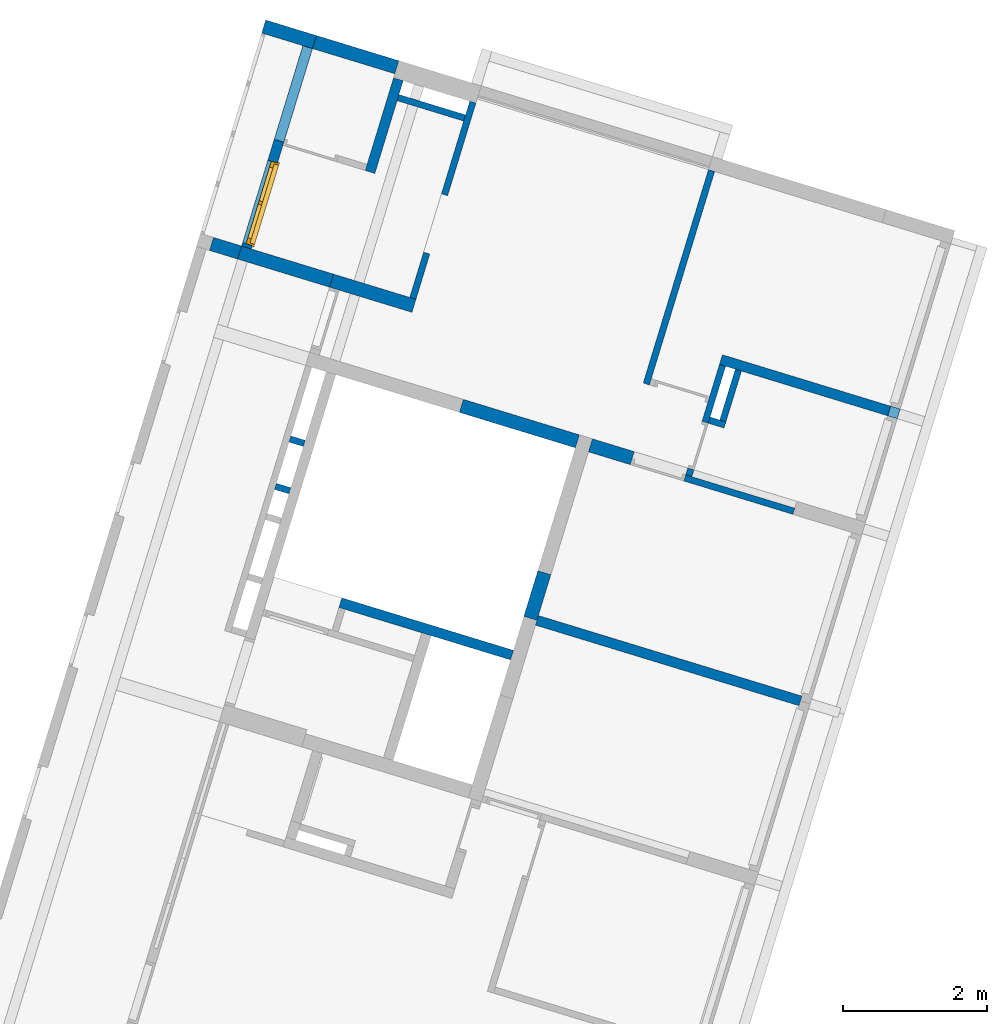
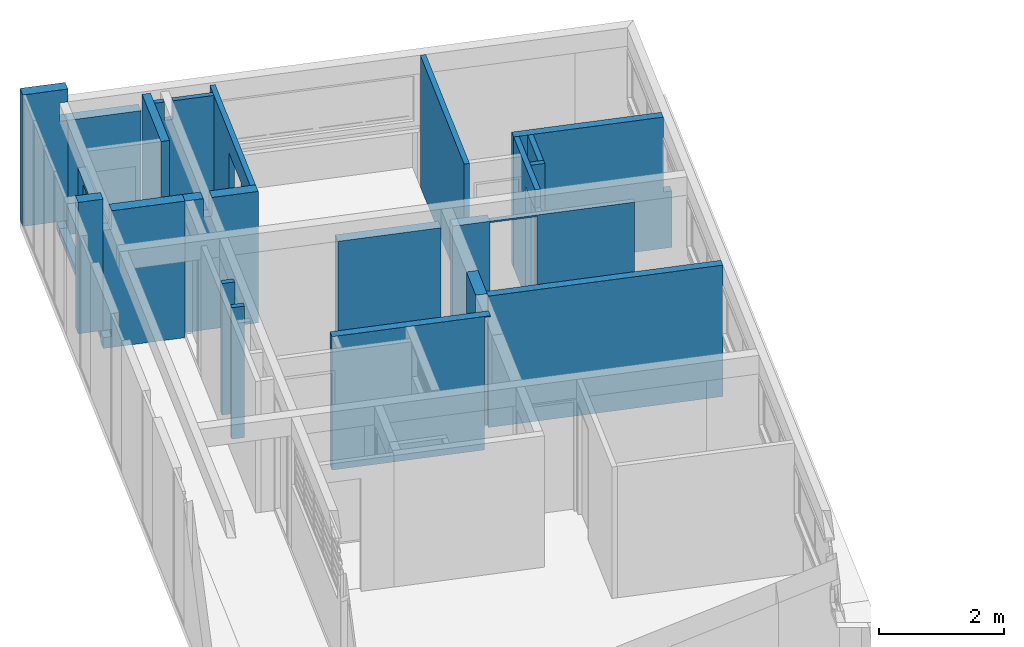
# One storey, part 15 of 18: 22 walls, 1 window, 4 openings.
"""IFC2X3 building model written with IfcOpenShell, lengths in millimetres."""

import ifcopenshell
import ifcopenshell.guid

model = None  # the IFC model being written
_history = None  # IfcOwnerHistory: only IFC2X3 demands one
_inside = {}  # id of a spatial element -> (the spatial element, [elements in it])
_under = {}  # id of a project, library or spatial element -> (it, [spatial elements below it])
_declared = {}  # id of a project -> (the project, [libraries it declares])
_typed = {}  # id of a type object -> (the type object, [elements of that type])
_made_of = {}  # id of a material, layer set ... -> (it, [elements and type objects made of it])


def new_model(schema):
    """Start an empty IFC model of exactly this schema.

    Asked for "IFC4X3", IfcOpenShell would pick the latest addendum, in which some entities
    have other attributes; the version numbers below select the first issue.
    IFC2X3 requires an IfcOwnerHistory on every rooted entity: one is made here for all.
    """
    global model, _history
    if schema == "IFC4X3":
        model = ifcopenshell.file(schema_version=(4, 3, 0, 0))
    else:
        model = ifcopenshell.file(schema=schema)
    _inside.clear()
    _under.clear()
    _declared.clear()
    _typed.clear()
    _made_of.clear()
    _history = None
    if model.schema == "IFC2X3":
        org = make("IfcOrganization", Name="unknown")
        user = make(
            "IfcPersonAndOrganization",
            ThePerson=make("IfcPerson", FamilyName="unknown"),
            TheOrganization=org,
        )
        app = make(
            "IfcApplication",
            ApplicationDeveloper=org,
            Version="unknown",
            ApplicationFullName="unknown",
            ApplicationIdentifier="unknown",
        )
        _history = make(
            "IfcOwnerHistory",
            OwningUser=user,
            OwningApplication=app,
            ChangeAction="ADDED",
            CreationDate=0,
        )
    return model


def make(cls, **values):
    """One entity of the class cls with the attributes given. An attribute that is None is left unset."""
    return model.create_entity(
        cls, **{name: value for name, value in values.items() if value is not None}
    )


def entity(cls, *values):
    """Any entity or typed value of the class cls, its attributes in the order of the schema. None: left unset."""
    e = model.create_entity(cls)
    for i, value in enumerate(values):
        if value is not None:
            e[i] = value
    return e


def rooted(cls, **values):
    """An entity with a GlobalId (a new one), such as an element, a storey or a relation."""
    return make(cls, GlobalId=ifcopenshell.guid.new(), OwnerHistory=_history, **values)


def si_unit(unit_type, name, prefix=None):
    """IfcSIUnit, for example si_unit("LENGTHUNIT", "METRE", prefix="MILLI")."""
    return make("IfcSIUnit", UnitType=unit_type, Prefix=prefix, Name=name)


def converted_unit(unit_type, name, factor, base, dimensions=None, offset=None):
    """IfcConversionBasedUnit, such as the inch: factor (a typed value) times the base unit."""
    return make(
        "IfcConversionBasedUnit"
        if offset is None
        else "IfcConversionBasedUnitWithOffset",
        ConversionOffset=offset,
        Dimensions=None
        if dimensions is None
        else entity("IfcDimensionalExponents", *dimensions),
        UnitType=unit_type,
        Name=name,
        ConversionFactor=make(
            "IfcMeasureWithUnit", ValueComponent=factor, UnitComponent=base
        ),
    )


def derived_unit(unit_type, elements):
    """IfcDerivedUnit: a product of units, each with its exponent."""
    return make(
        "IfcDerivedUnit",
        Elements=[
            make("IfcDerivedUnitElement", Unit=unit, Exponent=power)
            for unit, power in elements
        ],
        UnitType=unit_type,
    )


def money_unit(currency):
    """IfcMonetaryUnit."""
    return make("IfcMonetaryUnit", Currency=currency)


def assignment(units):
    """IfcUnitAssignment: the units of a project."""
    return None if units is None else make("IfcUnitAssignment", Units=units)


def point(xyz):
    """IfcCartesianPoint."""
    return None if xyz is None else make("IfcCartesianPoint", Coordinates=xyz)


def direction(xyz):
    """IfcDirection."""
    return None if xyz is None else make("IfcDirection", DirectionRatios=xyz)


def frame(location, z_axis=None, x_axis=None):
    """IfcAxis2Placement3D, a coordinate frame: its origin and axes. An axis left out is left unset."""
    return make(
        "IfcAxis2Placement3D",
        Location=point(location),
        Axis=direction(z_axis),
        RefDirection=direction(x_axis),
    )


def origin_with_axes():
    """The frame at (0, 0, 0) with the z axis (0, 0, 1) and the x axis (1, 0, 0) written out."""
    return frame((0.0, 0.0, 0.0), z_axis=(0.0, 0.0, 1.0), x_axis=(1.0, 0.0, 0.0))


def place(relative_to, where):
    """IfcLocalPlacement: puts the frame where relative to a parent placement (None: the world)."""
    return make(
        "IfcLocalPlacement", PlacementRelTo=relative_to, RelativePlacement=where
    )


def context(
    kind, dimensions, precision=None, world=None, true_north=None, identifier=None
):
    """IfcGeometricRepresentationContext, for example the 3D "Model" context."""
    return make(
        "IfcGeometricRepresentationContext",
        ContextIdentifier=identifier,
        ContextType=kind,
        CoordinateSpaceDimension=dimensions,
        Precision=precision,
        WorldCoordinateSystem=world,
        TrueNorth=true_north,
    )


def subcontext(parent, identifier, kind, view, scale=None):
    """IfcGeometricRepresentationSubContext, for example "Body" below "Model"."""
    return make(
        "IfcGeometricRepresentationSubContext",
        ContextIdentifier=identifier,
        ContextType=kind,
        ParentContext=parent,
        TargetScale=scale,
        TargetView=view,
    )


def project(units=None, contexts=None):
    """IfcProject with its units and contexts."""
    return rooted(
        "IfcProject",
        Name="project",
        RepresentationContexts=contexts,
        UnitsInContext=assignment(units),
    )


def spatial(cls, under=None, at=None, **own):
    """A site, building, storey or space (cls), placed at a placement, below another one or the project."""
    s = rooted(cls, ObjectPlacement=at, **own)
    if under is not None:
        _under.setdefault(under.id(), (under, []))[1].append(s)
    return s


def faces_of(points, faces, orient=None, outer=None):
    """IfcFace entities. A face is a list of loops; a loop is a list of indices into points, from 0.

    orient and outer hold one flag for each loop. By default every Orientation is true, the
    first loop of a face is its IfcFaceOuterBound and the others are IfcFaceBound.
    """
    made = []
    for i, loops in enumerate(faces):
        bounds = []
        for j, loop in enumerate(loops):
            is_outer = j == 0 if outer is None else outer[i][j]
            bounds.append(
                make(
                    "IfcFaceOuterBound" if is_outer else "IfcFaceBound",
                    Bound=make("IfcPolyLoop", Polygon=[points[k] for k in loop]),
                    Orientation=True if orient is None else orient[i][j],
                )
            )
        made.append(make("IfcFace", Bounds=bounds))
    return made


def open_shell(faces, orient=None, outer=None):
    """The faces of one IfcOpenShell. surface_model builds it on its shared points."""
    return ("IfcOpenShell", faces, orient, outer)


def faceted_brep(points, faces, orient=None, outer=None, voids=None):
    """IfcFacetedBrep: a solid bounded by flat faces; with voids (closed shells), ...WithVoids."""
    shared = [point(p) for p in points]
    hull = make("IfcClosedShell", CfsFaces=faces_of(shared, faces, orient, outer))
    if voids is None:
        return make("IfcFacetedBrep", Outer=hull)
    return make(
        "IfcFacetedBrepWithVoids",
        Outer=hull,
        Voids=[
            make(cls, CfsFaces=faces_of(shared, fs, o, b)) for cls, fs, o, b in voids
        ],
    )


def surface_model(cls, points, shells):
    """IfcFaceBasedSurfaceModel or IfcShellBasedSurfaceModel (cls): surfaces that need not close."""
    shared = [point(p) for p in points]
    made = [make(c, CfsFaces=faces_of(shared, fs, o, b)) for c, fs, o, b in shells]
    if cls == "IfcFaceBasedSurfaceModel":
        return make(cls, FbsmFaces=made)
    return make(cls, SbsmBoundary=made)


def shape(context_of_items, identifier, shape_type, items):
    """IfcShapeRepresentation: the items that make up one representation, for example the "Body"."""
    return make(
        "IfcShapeRepresentation",
        ContextOfItems=context_of_items,
        RepresentationIdentifier=identifier,
        RepresentationType=shape_type,
        Items=items,
    )


def material(Name=None, Category=None):
    """IfcMaterial."""
    return make("IfcMaterial", Name=Name, Category=Category)


def made_of(thing, what):
    """Note that an element or type object is made of a material, layer set ...; save() writes the relation."""
    if what is not None:
        _made_of.setdefault(what.id(), (what, []))[1].append(thing)
    return thing


def type_object(cls, material=None, **own):
    """A type object (cls), such as IfcWallType, which elements share."""
    return made_of(rooted(cls, **own), material)


def element(
    cls,
    number,
    at=None,
    inside=None,
    cuts=None,
    type_object=None,
    material=None,
    context=None,
    identifier="Body",
    shape_type=None,
    held_by="IfcProductDefinitionShape",
    body=None,
    shapes=None,
    **own,
):
    """One element of the class cls, such as IfcWall. Its Tag is "e" and its number.

    at: its placement. inside: the storey or other place that contains it. cuts: it is an
    opening in that element (IfcRelVoidsElement). A single representation is given by context,
    identifier, shape_type and body (its items); several are given by shapes. held_by: the class
    of the entity that holds the representations. save() writes the other relations.
    """
    e = rooted(cls, Tag="e%d" % number, ObjectPlacement=at, **own)
    if body is not None:
        shapes = [shape(context, identifier, shape_type, body)]
    if shapes is not None:
        e.Representation = make(held_by, Representations=shapes)
    if inside is not None:
        _inside.setdefault(inside.id(), (inside, []))[1].append(e)
    if cuts is not None:
        rooted(
            "IfcRelVoidsElement", RelatingBuildingElement=cuts, RelatedOpeningElement=e
        )
    if type_object is not None:
        _typed.setdefault(type_object.id(), (type_object, []))[1].append(e)
    return made_of(e, material)


def fill(opening, filler):
    """IfcRelFillsElement: the door or window that sits in an opening."""
    return rooted(
        "IfcRelFillsElement",
        RelatingOpeningElement=opening,
        RelatedBuildingElement=filler,
    )


def aggregate(whole, parts):
    """IfcRelAggregates: a whole, such as a stair, and the parts it consists of."""
    return rooted("IfcRelAggregates", RelatingObject=whole, RelatedObjects=parts)


def save(model, path):
    """Write the relations noted so far, then the file.

    IfcRelAggregates (storeys below a building ...), IfcRelContainedInSpatialStructure (elements
    in a storey), IfcRelDefinesByType, IfcRelAssociatesMaterial and IfcRelDeclares: one each for
    every whole, place, type object, material and project.
    """
    for whole, parts in _under.values():
        aggregate(whole, parts)
    for where, things in _inside.values():
        rooted(
            "IfcRelContainedInSpatialStructure",
            RelatedElements=things,
            RelatingStructure=where,
        )
    for kind, things in _typed.values():
        rooted("IfcRelDefinesByType", RelatedObjects=things, RelatingType=kind)
    for what, things in _made_of.values():
        rooted("IfcRelAssociatesMaterial", RelatedObjects=things, RelatingMaterial=what)
    for by, libraries in _declared.values():
        rooted("IfcRelDeclares", RelatingContext=by, RelatedDefinitions=libraries)
    model.write(path)


model = new_model("IFC2X3")

# Units and contexts
model_context = context("Model", 3, precision=0.01, world=origin_with_axes(), true_north=direction((0.0, 1.0)))
body_context = subcontext(model_context, "Body", "Model", "MODEL_VIEW")
ifc_project = project(units=[si_unit("LENGTHUNIT", "METRE", prefix="MILLI"), si_unit("AREAUNIT", "SQUARE_METRE"), si_unit("VOLUMEUNIT", "CUBIC_METRE"), converted_unit("PLANEANGLEUNIT", "DEGREE", entity("IfcPlaneAngleMeasure", 0.0174532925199), si_unit("PLANEANGLEUNIT", "RADIAN"), dimensions=[0, 0, 0, 0, 0, 0, 0]), money_unit("USD"), converted_unit("TIMEUNIT", "Year", entity("IfcTimeMeasure", 31556926.0), si_unit("TIMEUNIT", "SECOND"), dimensions=[0, 0, 1, 0, 0, 0, 0]), si_unit("MASSUNIT", "GRAM", prefix="KILO"), si_unit("THERMODYNAMICTEMPERATUREUNIT", "DEGREE_CELSIUS"), si_unit("LUMINOUSINTENSITYUNIT", "LUMEN"), si_unit("ENERGYUNIT", "JOULE", prefix="MEGA"), derived_unit("THERMALCONDUCTANCEUNIT", [(si_unit("POWERUNIT", "WATT"), 1), (si_unit("LENGTHUNIT", "METRE"), -1), (si_unit("THERMODYNAMICTEMPERATUREUNIT", "KELVIN"), -1)]), derived_unit("SPECIFICHEATCAPACITYUNIT", [(si_unit("ENERGYUNIT", "JOULE"), 1), (si_unit("MASSUNIT", "GRAM", prefix="KILO"), -1), (si_unit("THERMODYNAMICTEMPERATUREUNIT", "KELVIN"), -1)]), derived_unit("MASSDENSITYUNIT", [(si_unit("MASSUNIT", "GRAM", prefix="KILO"), 1), (si_unit("VOLUMEUNIT", "CUBIC_METRE"), -1)])], contexts=[model_context])

# Site, building, storey
site_placement = place(None, frame((0.0, 0.0, 0.0), z_axis=(0.0, 0.0, 1.0), x_axis=(0.956304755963, -0.292371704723, 0.0)))
site = spatial("IfcSite", under=ifc_project, at=site_placement, Name="Site", CompositionType="ELEMENT")
building_placement = place(site_placement, origin_with_axes())
building = spatial("IfcBuilding", under=site, at=building_placement, Name="Building", CompositionType="ELEMENT")
storey_placement = place(building_placement, origin_with_axes())
storey = spatial("IfcBuildingStorey", under=building, at=storey_placement, Name="Pavimento tipo", CompositionType="ELEMENT", Elevation=0.0)

# Wall
ifc_material = material(Name="Tijolo - Estrutural")
wall_type_1 = type_object("IfcWallType", Name="Tijolo - Estrutural 90", PredefinedType="NOTDEFINED")
wall_1_placement = place(storey_placement, frame((1341.71113634, 23649.9980199, -100.0), z_axis=(0.0, 0.0, 1.0), x_axis=(1.0, 1.6616762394e-07, 0.0)))
element("IfcWall", 1, at=wall_1_placement, inside=storey, type_object=wall_type_1, material=ifc_material, Name="Parede 49", context=body_context, shape_type="Brep", body=[
    faceted_brep([(89.9999990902, -90.0000149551, 2560.0), (299.999789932, -90.0000498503, 2560.0), (299.999804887, -4.98502537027e-05, 2560.0), (90.0, -1.49550842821e-05, 2560.0), (89.9999990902, -90.0000149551, 0.0), (299.999789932, -90.0000498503, 0.0), (299.999804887, -4.98502537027e-05, 0.0), (90.0, -1.49550842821e-05, 0.0)], [[[0, 1, 2, 3]], [[4, 5, 1, 0]], [[6, 2, 1, 5]], [[3, 2, 6, 7]], [[7, 4, 0, 3]], [[7, 6, 5, 4]]]),
])

# Space
space_1_placement = place(storey_placement, frame((1481.71158317, 24839.9981298, 0.0), z_axis=(0.0, 0.0, 1.0), x_axis=(1.0, -1.55460451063e-08, 0.0)))
space_1 = spatial("IfcSpace", under=storey, at=space_1_placement, Name="04", CompositionType="ELEMENT", InteriorOrExteriorSpace="INTERNAL")

# Wall
wall_2_placement = place(space_1_placement, frame((5690.00065724, 679.991992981, 0.0), z_axis=(0.0, 0.0, 1.0), x_axis=(-1.55460451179e-08, 1.0, 0.0)))
element("IfcWall", 2, at=wall_2_placement, inside=space_1, type_object=wall_type_1, material=ifc_material, Name="Apt 04 - Parede 21", context=body_context, shape_type="Brep", body=[
    faceted_brep([(830.000003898, 90.0, 0.0), (830.000006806, 0.0, 0.0), (90.0, 0.0, 0.0), (90.0, 90.0, 0.0), (830.000003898, 90.0, 2560.0), (830.000006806, 0.0, 2560.0), (90.0, 0.0, 2560.0), (90.0, 90.0, 2560.0)], [[[0, 1, 2, 3]], [[1, 0, 4, 5]], [[1, 5, 6, 2]], [[7, 3, 2, 6]], [[4, 0, 3, 7]], [[5, 4, 7, 6]]]),
])

# Wall, opening
wall_3_placement = place(space_1_placement, frame((6959.99933264, -100.007985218, 0.0), z_axis=(0.0, 0.0, 1.0), x_axis=(-1.0, -8.21768748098e-08, 0.0)))
wall_3 = element("IfcWall", 3, at=wall_3_placement, inside=space_1, type_object=wall_type_1, material=ifc_material, Name="Apt 04 - Parede 14", context=body_context, shape_type="Brep", body=[
    faceted_brep([(1589.99957007, -0.000105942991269, 2170.0), (2369.99957007, -0.000157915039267, 2170.0), (2369.99980652, -0.000157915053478, 2200.0), (0.0, 0.0, 2200.0), (0.0, 0.0, 0.0), (1589.99957007, -0.000105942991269, 0.0), (1589.99957606, 89.999894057, 2170.0), (2369.99957606, 89.999842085, 2170.0), (2369.99981252, 89.9998420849, 2200.0), (5.99677463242e-06, 90.0, 2200.0), (5.99677463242e-06, 90.0, 0.0), (1589.99957606, 89.999894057, 0.0)], [[[0, 1, 2, 3, 4, 5]], [[1, 0, 6, 7]], [[1, 7, 8, 2]], [[3, 2, 8, 9]], [[9, 10, 4, 3]], [[11, 5, 4, 10]], [[0, 5, 11, 6]], [[6, 11, 10, 9, 8, 7]]]),
])
opening_1_placement = place(wall_3_placement, frame((1979.99957007, 0.0, 0.0), z_axis=(0.0, 0.0, 1.0), x_axis=(1.0, 0.0, 0.0)))
element("IfcOpeningElement", 4, at=opening_1_placement, cuts=wall_3, Name="Apt 04 - Porta 05", context=body_context, shape_type="Brep", body=[
    faceted_brep([(390.000006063, 91.0, 2170.0), (390.000006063, 91.0, 0.0), (-389.999993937, 91.0000519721, 0.0), (-389.999993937, 91.0000519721, 2170.0), (389.999999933, -1.00015791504, 2170.0), (389.999999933, -1.00015791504, 0.0), (-390.000000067, -1.00010594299, 0.0), (-390.000000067, -1.00010594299, 2170.0)], [[[0, 1, 2, 3]], [[4, 5, 1, 0]], [[5, 6, 2, 1]], [[6, 7, 3, 2]], [[7, 4, 0, 3]], [[6, 5, 4, 7]]]),
])

# Wall
wall_4_placement = place(space_1_placement, frame((-69.9999247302, 3755.00179423, -30.0), z_axis=(0.0, 0.0, 1.0), x_axis=(1.0, 1.64246525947e-08, 0.0)))
element("IfcWall", 5, at=wall_4_placement, inside=space_1, type_object=wall_type_1, material=ifc_material, Name="Apt 04 - Parede 05", context=body_context, shape_type="Brep", body=[
    faceted_brep([(230.00173157, 44.9999997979, 2590.0), (230.00173157, 44.9999997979, 2230.0), (370.00173157, 44.9999996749, 2230.0), (370.00173157, 44.9999996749, 2590.0), (1039.99987836, 44.9999990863, 2590.0), (1039.99994269, 44.9999990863, 0.0), (70.0000064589, 44.9999999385, 0.0), (70.0000064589, 44.9999999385, 2590.0), (230.00173149, -45.0000002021, 2230.0), (230.00173149, -45.0000002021, 2590.0), (370.00173149, -45.0000003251, 2230.0), (370.00173149, -45.0000003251, 2590.0), (1039.99987828, -45.0000009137, 2590.0), (1039.99993531, -45.0000009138, 0.0), (70.0000063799, -45.0000000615, 0.0), (70.0000063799, -45.0000000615, 2590.0)], [[[0, 1, 2, 3, 4, 5, 6, 7]], [[8, 1, 0, 9]], [[10, 2, 1, 8]], [[10, 11, 3, 2]], [[4, 3, 11, 12]], [[4, 12, 13, 5]], [[14, 6, 5, 13]], [[6, 14, 15, 7]], [[15, 9, 0, 7]], [[10, 8, 9, 15, 14, 13, 12, 11]]]),
])

# Wall, opening
wall_5_placement = place(space_1_placement, frame((5370.00068436, 1649.99198447, 0.0), z_axis=(0.0, 0.0, 1.0), x_axis=(8.21581371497e-08, -1.0, 0.0)))
wall_5 = element("IfcWall", 6, at=wall_5_placement, inside=space_1, type_object=wall_type_1, material=ifc_material, Name="Apt 04 - Parede 20", context=body_context, shape_type="Brep", body=[
    faceted_brep([(1650.00000246, 89.99989009, 0.0), (1650.00000246, 89.99989009, 2170.0), (970.000002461, 89.9999353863, 2170.0), (970.000002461, 89.9999353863, 0.0), (140.000003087, 89.9999906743, 0.0), (140.000003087, 89.9999906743, 2560.0), (1650.00123126, 89.99989009, 2560.0), (1650.00123126, 89.99989009, 2200.0), (1750.0000004, 89.9998834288, 2200.0), (1750.0000004, 89.9998834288, 0.0), (1649.99999647, -0.000109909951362, 0.0), (1649.99999647, -0.000109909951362, 2170.0), (969.999996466, -6.46137285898e-05, 2170.0), (969.999996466, -6.46137285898e-05, 0.0), (140.0, -9.32569221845e-06, 0.0), (140.0, -9.32569221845e-06, 2560.0), (1650.00120562, -0.000109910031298, 2560.0), (1650.00120562, -0.00010991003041, 2200.0), (1749.99999441, -0.000116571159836, 2200.0), (1749.99999441, -0.000116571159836, 0.0)], [[[0, 1, 2, 3, 4, 5, 6, 7, 8, 9]], [[1, 0, 10, 11]], [[2, 1, 11, 12]], [[3, 2, 12, 13]], [[3, 13, 14, 4]], [[15, 5, 4, 14]], [[16, 6, 5, 15]], [[7, 6, 16, 17]], [[8, 7, 17, 18]], [[8, 18, 19, 9]], [[10, 0, 9, 19]], [[11, 10, 19, 18, 17, 16, 15, 14, 13, 12]]]),
])
opening_2_placement = place(wall_5_placement, frame((1309.99999647, 0.0, 0.0), z_axis=(0.0, 0.0, 1.0), x_axis=(1.0, 0.0, 0.0)))
element("IfcOpeningElement", 7, at=opening_2_placement, cuts=wall_5, Name="Apt 04 - Porta 04", context=body_context, shape_type="Brep", body=[
    faceted_brep([(340.000006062, 91.0000126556, 2170.0), (340.000006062, 91.0000126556, 0.0), (-339.999993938, 91.0000579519, 0.0), (-339.999993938, 91.0000579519, 2170.0), (339.999999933, -1.00010990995, 2170.0), (339.999999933, -1.00010990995, 0.0), (-340.000000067, -1.00006461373, 0.0), (-340.000000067, -1.00006461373, 2170.0)], [[[0, 1, 2, 3]], [[4, 5, 1, 0]], [[5, 6, 2, 1]], [[6, 7, 3, 2]], [[7, 4, 0, 3]], [[6, 5, 4, 7]]]),
])

wall_6_placement = place(space_1_placement, frame((1014.99994978, 3999.9919203, 0.0), z_axis=(0.0, 0.0, 1.0), x_axis=(1.55460451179e-08, -1.0, 0.0)))
wall_6 = element("IfcWall", 8, at=wall_6_placement, inside=space_1, type_object=wall_type_1, material=ifc_material, Name="Apt 04 - Parede 18", context=body_context, shape_type="Brep", body=[
    faceted_brep([(2200.0006258, 45.0, 0.0), (2200.0006258, 45.0, 2170.0), (1350.0006258, 45.0, 2170.0), (1350.0006258, 45.0, 0.0), (0.0, 45.0, 0.0), (0.0, 45.0, 2560.0), (2859.99983929, 45.0, 2560.0), (2859.99983929, 45.0, 0.0), (2200.0006258, -45.0, 0.0), (2200.0006258, -45.0, 2170.0), (1350.0006258, -45.0, 2170.0), (1350.0006258, -45.0, 0.0), (0.0, -45.0, 0.0), (0.0, -45.0, 2560.0), (2860.00016071, -45.0, 2560.0), (2860.00016071, -45.0, 0.0)], [[[0, 1, 2, 3, 4, 5, 6, 7]], [[1, 0, 8, 9]], [[2, 1, 9, 10]], [[3, 2, 10, 11]], [[3, 11, 12, 4]], [[5, 4, 12, 13]], [[14, 6, 5, 13]], [[15, 7, 6, 14]], [[8, 0, 7, 15]], [[9, 8, 15, 14, 13, 12, 11, 10]]]),
])
opening_3_placement = place(wall_6_placement, frame((1775.0006258, 0.0, 0.0), z_axis=(0.0, 0.0, 1.0), x_axis=(1.0, 0.0, 0.0)))
element("IfcOpeningElement", 9, at=opening_3_placement, cuts=wall_6, Name="Apt 04 - Vão 01", context=body_context, shape_type="Brep", body=[
    faceted_brep([(-425.0, 45.0, 0.0), (-425.0, 45.0, 2170.0), (-425.0, 46.0, 2170.0), (-425.0, 46.0, 0.0), (-425.0, -46.0, 0.0), (-425.0, -46.0, 2170.0), (425.0, 45.0, 2170.0), (425.0, 46.0, 2170.0), (425.0, 46.0, 0.0), (425.0, 45.0, 0.0), (425.0, -46.0, 0.0), (425.0, -46.0, 2170.0)], [[[0, 1, 2, 3]], [[1, 0, 4, 5]], [[1, 6, 7, 2]], [[8, 3, 2, 7]], [[9, 0, 3, 8]], [[0, 9, 10, 4]], [[5, 4, 10, 11]], [[6, 1, 5, 11]], [[6, 9, 8, 7]], [[9, 6, 11, 10]]]),
])

# Walls
wall_7_placement = place(space_1_placement, frame((5370.00076405, 679.991988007, 0.0), z_axis=(0.0, 0.0, 1.0), x_axis=(1.0, 1.55460451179e-08, 0.0)))
element("IfcWall", 10, at=wall_7_placement, inside=space_1, type_object=wall_type_1, material=ifc_material, Name="Apt 04 - Parede 12", context=body_context, shape_type="Brep", body=[
    faceted_brep([(319.999893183, 90.0, 0.0), (319.999893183, 0.0, 0.0), (90.0000000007, 0.0, 0.0), (89.9999940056, 90.0, 0.0), (319.999893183, 90.0, 2560.0), (319.999893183, 0.0, 2560.0), (90.0000000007, 0.0, 2560.0), (89.9999940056, 90.0, 2560.0)], [[[0, 1, 2, 3]], [[1, 0, 4, 5]], [[1, 5, 6, 2]], [[7, 3, 2, 6]], [[4, 0, 3, 7]], [[5, 4, 7, 6]]]),
])
wall_8_placement = place(space_1_placement, frame((4430.00467104, 4249.99205213, 0.0), z_axis=(0.0, 0.0, 1.0), x_axis=(-8.54736887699e-07, -1.0, 0.0)))
element("IfcWall", 11, at=wall_8_placement, inside=space_1, type_object=wall_type_1, material=ifc_material, Name="Apt 04 - Parede 19", context=body_context, shape_type="Brep", body=[
    faceted_brep([(190.000000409, 90.0, 0.0), (189.998762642, 90.0, 2560.0), (3299.99999441, 90.0, 2560.0), (3299.99999441, 90.0, 0.0), (190.000078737, 0.0, 1100.0), (189.99884097, -0.00275009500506, 2200.0), (189.998840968, 0.0, 2560.0), (190.000078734, 0.0, 0.0), (3300.00007874, 0.0, 2560.0), (3300.00007874, 0.0, 0.0)], [[[0, 1, 2, 3]], [[4, 5, 6, 1, 0, 7]], [[2, 1, 6, 8]], [[8, 9, 3, 2]], [[3, 9, 7, 0]], [[8, 6, 5, 4, 7, 9]]]),
])
wall_9_placement = place(storey_placement, frame((1341.71124402, 22959.9980199, -100.0), z_axis=(0.0, 0.0, 1.0), x_axis=(1.0, 1.66167621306e-07, 0.0)))
element("IfcWall", 12, at=wall_9_placement, inside=storey, type_object=wall_type_1, material=ifc_material, Name="Parede 50", context=body_context, shape_type="Brep", body=[
    faceted_brep([(89.9999990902, -90.0000149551, 2560.0), (299.999682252, -90.0000498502, 2560.0), (299.999697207, -4.98502359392e-05, 2560.0), (90.0, -1.49550842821e-05, 2560.0), (89.9999990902, -90.0000149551, 0.0), (299.999682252, -90.0000498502, 0.0), (299.999697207, -4.98502359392e-05, 0.0), (90.0, -1.49550842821e-05, 0.0)], [[[0, 1, 2, 3]], [[4, 5, 1, 0]], [[6, 2, 1, 5]], [[3, 2, 6, 7]], [[7, 4, 0, 3]], [[7, 6, 5, 4]]]),
])

# Space
space_2_placement = place(storey_placement, frame((1641.71094123, 19800.0000381, 0.0), z_axis=(0.0, 0.0, 1.0), x_axis=(1.0, -4.87759542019e-08, 0.0)))
space_2 = spatial("IfcSpace", under=storey, at=space_2_placement, Name="06", CompositionType="ELEMENT", InteriorOrExteriorSpace="INTERNAL")

# Walls
wall_type_2 = type_object("IfcWallType", Name="Tijolo - Estrutural 140", PredefinedType="NOTDEFINED")
wall_10_placement = place(space_2_placement, frame((3724.99996804, 1760.00003396, -20.0), z_axis=(0.0, 0.0, 1.0), x_axis=(-1.0, -6.67615991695e-09, 0.0)))
element("IfcWall", 13, at=wall_10_placement, inside=space_2, type_object=wall_type_2, material=ifc_material, Name="Parede 77", context=body_context, shape_type="Brep", body=[
    faceted_brep([(94.9999732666, 3.99948163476e-06, 2580.0), (94.9998739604, 3.99947808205e-06, 0.0), (94.9998685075, -139.999996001, 0.0), (94.9999791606, -139.999996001, 2580.0), (2595.00002147, 0.000109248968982, 0.0), (-5.89397153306e-06, 0.0, 2580.0), (-5.89397153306e-06, 0.0, 2600.0), (2595.00002147, 0.000109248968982, 2600.0), (2595.00002736, -139.999890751, 0.0), (2595.00002736, -139.999890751, 2600.0), (0.0, -140.0, 2600.0), (0.0, -140.0, 2580.0)], [[[0, 1, 2, 3]], [[4, 1, 0, 5, 6, 7]], [[8, 2, 1, 4]], [[3, 2, 8, 9, 10, 11]], [[5, 0, 3, 11]], [[10, 6, 5, 11]], [[10, 9, 7, 6]], [[4, 7, 9, 8]]]),
])
wall_11_placement = place(space_1_placement, frame((5370.00068436, 1649.99198447, 0.0), z_axis=(0.0, 0.0, 1.0), x_axis=(1.0, 4.78594909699e-08, 0.0)))
element("IfcWall", 14, at=wall_11_placement, inside=space_1, type_object=wall_type_2, material=ifc_material, Name="Apt 04 - Parede 11", context=body_context, shape_type="Brep", body=[
    faceted_brep([(4.80181050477e-06, -140.0, 2560.0), (2450.00118744, -140.000079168, 2560.0), (2450.00119043, -7.91679823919e-05, 2560.0), (0.0, 0.0, 2560.0), (2450.00062998, -140.000079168, 1100.0), (4.80181050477e-06, -140.0, 0.0), (2590.00039313, -140.000083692, 0.0), (2590.00039313, -140.000083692, 1030.0), (2590.00062998, -140.000083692, 1100.0), (2450.00061698, -7.91679610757e-05, 1100.0), (2590.00061698, -8.3691816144e-05, 1100.0), (2590.00039766, -8.36918374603e-05, 1030.0), (2590.00039766, -8.36918374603e-05, 0.0), (0.0, 0.0, 0.0)], [[[0, 1, 2, 3]], [[4, 1, 0, 5, 6, 7, 8]], [[9, 2, 1, 4]], [[3, 2, 9, 10, 11, 12, 13]], [[13, 5, 0, 3]], [[6, 5, 13, 12]], [[7, 6, 12, 11]], [[7, 11, 10, 8]], [[9, 4, 8, 10]]]),
])
wall_12_placement = place(space_1_placement, frame((-1339.99689762, 4155.00186959, -30.0), z_axis=(0.0, 0.0, 1.0), x_axis=(1.37199653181e-05, -0.999999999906, 0.0)))
element("IfcWall", 15, at=wall_12_placement, inside=space_1, type_object=wall_type_2, material=ifc_material, Name="Parede 70", context=body_context, shape_type="Brep", body=[
    faceted_brep([(95.0000000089, 0.0, 0.0), (1459.9997812, 0.0, 0.0), (1459.9997812, -140.0, 0.0), (94.9980846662, -140.0, 0.0), (95.0000000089, 0.0, 140.0), (1459.9997812, 0.0, 140.0), (1459.9997812, -140.0, 140.0), (94.9980846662, -140.0, 140.0)], [[[0, 1, 2, 3]], [[4, 5, 1, 0]], [[2, 1, 5, 6]], [[3, 2, 6, 7]], [[4, 0, 3, 7]], [[7, 6, 5, 4]]]),
])
wall_13_placement = place(space_1_placement, frame((-69.9999221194, 3999.99190344, -30.0), z_axis=(0.0, 0.0, 1.0), x_axis=(1.55460451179e-08, -1.0, 0.0)))
element("IfcWall", 16, at=wall_13_placement, inside=space_1, type_object=wall_type_2, material=ifc_material, Name="Apt 04 - Parede 17", context=body_context, shape_type="Brep", body=[
    faceted_brep([(0.0, 70.0, 0.0), (1349.99020479, 70.0, 0.0), (1349.98998487, -70.0, 0.0), (0.0, -70.0, 0.0), (0.0, 70.0, 2590.0), (1349.99020479, 70.0, 2590.0), (1349.98998487, -70.0, 2590.0), (0.0, -70.0, 2590.0)], [[[0, 1, 2, 3]], [[4, 5, 1, 0]], [[6, 2, 1, 5]], [[3, 2, 6, 7]], [[7, 4, 0, 3]], [[7, 6, 5, 4]]]),
])

# Wall, opening, window
wall_14_placement = place(space_1_placement, frame((-1340.01854233, 2650.00378383, -30.0), z_axis=(0.0, 0.0, 1.0), x_axis=(1.35030717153e-05, -0.999999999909, 0.0)))
wall_14 = element("IfcWall", 17, at=wall_14_placement, inside=space_1, type_object=wall_type_2, material=ifc_material, Name="Apt 04 - Parede 16", context=body_context, shape_type="Brep", body=[
    faceted_brep([(-90.0000000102, 0.0, 0.0), (-90.0000000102, 0.0, 140.0), (1510.01292153, -3.03514713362e-08, 140.0), (1510.01292153, 0.0, 0.0), (-90.0021081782, -140.0, 0.0), (-90.0021081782, -140.0, 140.0), (1510.01067118, -140.0, 140.0), (1510.01067118, -140.0, 0.0)], [[[0, 1, 2, 3]], [[4, 5, 1, 0]], [[5, 6, 2, 1]], [[3, 2, 6, 7]], [[0, 3, 7, 4]], [[7, 6, 5, 4]]]),
    faceted_brep([(260.000203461, -90.0, 2150.0), (1460.00020346, -90.0, 2150.0), (1460.00020346, -140.0, 2150.0), (260.000203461, -140.0, 2150.0), (260.000203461, -3.03511105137e-08, 2150.0), (1460.00020346, -3.03513325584e-08, 2150.0), (1460.00020346, -90.0, 1030.0), (1460.00020346, -140.0, 1030.0), (1510.01067118, -140.0, 280.0), (1510.01067118, -140.0, 2230.0), (-90.0021081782, -140.0, 2230.0), (-90.0021081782, -140.0, 280.0), (260.000203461, -140.0, 1030.0), (260.000203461, -90.0, 1030.0), (-90.0000000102, 0.0, 280.0), (-90.0000000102, 0.0, 2230.0), (1510.01292153, 0.0, 2230.0), (1510.01292153, -3.03514713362e-08, 280.0), (260.000203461, -3.03511937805e-08, 1030.0), (1460.00020346, -3.03514158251e-08, 1030.0)], [[[0, 1, 2, 3]], [[4, 5, 1, 0]], [[1, 6, 7, 2]], [[8, 9, 10, 11], [3, 2, 7, 12]], [[13, 0, 3, 12]], [[14, 15, 16, 17], [18, 19, 5, 4]], [[5, 19, 6, 1]], [[18, 4, 0, 13]], [[6, 13, 12, 7]], [[17, 16, 9, 8]], [[16, 15, 10, 9]], [[11, 10, 15, 14]], [[17, 8, 11, 14]], [[19, 18, 13, 6]]]),
])
opening_4_placement = place(wall_14_placement, frame((860.000203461, 0.0, 1030.0), z_axis=(0.0, 0.0, 1.0), x_axis=(1.0, 0.0, 0.0)))
opening_4 = element("IfcOpeningElement", 18, at=opening_4_placement, cuts=wall_14, Name="Apt 04 - J05", context=body_context, shape_type="Brep", body=[
    faceted_brep([(600.0, 0.0, 0.0), (600.0, 0.0, 1120.0), (600.0, -90.0, 1120.0), (600.0, -90.0, 0.0), (615.0, 0.0, -15.0), (615.0, 0.0, 1135.0), (-615.0, 0.0, 1135.0), (-615.0, 0.0, -15.0), (-600.0, 0.0, 1120.0), (-600.0, 0.0, 0.0), (-600.0, -90.0, 1120.0), (-600.0, -141.022928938, 1120.0), (600.0, -141.022928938, 1120.0), (600.0, -141.022928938, 0.0), (-600.0, -141.022928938, 0.0), (-600.0, -90.0, 0.0), (615.0, 1.02292893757, -15.0), (615.0, 1.02292893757, 1135.0), (-615.0, 1.02292893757, 1135.0), (-615.0, 1.02292893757, -15.0)], [[[0, 1, 2, 3]], [[4, 5, 6, 7], [8, 1, 0, 9]], [[1, 8, 10, 11, 12, 2]], [[3, 2, 12, 13]], [[9, 0, 3, 13, 14, 15]], [[5, 4, 16, 17]], [[6, 5, 17, 18]], [[7, 6, 18, 19]], [[4, 7, 19, 16]], [[8, 9, 15, 10]], [[10, 15, 14, 11]], [[11, 14, 13, 12]], [[18, 17, 16, 19]]]),
])
window_style = type_object("IfcWindowStyle", Name="Janela 26", ConstructionType="NOTDEFINED", OperationType="DOUBLE_PANEL_VERTICAL", ParameterTakesPrecedence=False, Sizeable=False)
window_placement = place(opening_4_placement, frame((-600.0, 0.0, 0.0), z_axis=(0.0, 0.0, 1.0), x_axis=(1.0, 0.0, 0.0)))
window = element("IfcWindow", 19, at=window_placement, inside=space_1, type_object=window_style, Name="Apt 04 - J05", OverallHeight=1120.0, OverallWidth=1200.0, context=body_context, shape_type="SurfaceModel", body=[
    faceted_brep([(0.0, -40.0, 0.0), (0.0, 0.0, 0.0), (1200.0, 0.0, 0.0), (1200.0, -40.0, 0.0), (0.0, -40.0, 1120.0), (0.0, 0.0, 1120.0), (1200.0, 0.0, 1120.0), (25.0, 0.0, 25.0), (1175.0, 0.0, 25.0), (1175.0, 0.0, 1095.0), (25.0, 0.0, 1095.0), (1200.0, -40.0, 1120.0), (25.0, -40.0, 25.0), (25.0, -40.0, 1095.0), (1175.0, -40.0, 1095.0), (1175.0, -40.0, 25.0)], [[[0, 1, 2, 3]], [[4, 5, 1, 0]], [[1, 5, 6, 2], [7, 8, 9, 10]], [[3, 2, 6, 11]], [[0, 3, 11, 4], [12, 13, 14, 15]], [[11, 6, 5, 4]], [[15, 8, 7, 12]], [[14, 9, 8, 15]], [[13, 10, 9, 14]], [[12, 7, 10, 13]]]),
    faceted_brep([(-15.0, 25.0, -15.0), (25.0, 25.0, 25.0), (25.0, 0.0, 25.0), (-15.0, 0.0, -15.0), (-15.0, 25.0, 1135.0), (25.0, 25.0, 1095.0), (25.0, 0.0, 1095.0), (-15.0, 0.0, 1135.0)], [[[0, 1, 2, 3]], [[0, 4, 5, 1]], [[1, 5, 6, 2]], [[3, 2, 6, 7]], [[4, 0, 3, 7]], [[5, 4, 7, 6]]]),
    faceted_brep([(1215.0, 25.0, 1135.0), (1175.0, 25.0, 1095.0), (1175.0, 0.0, 1095.0), (1215.0, 0.0, 1135.0), (1215.0, 25.0, -15.0), (1175.0, 25.0, 25.0), (1175.0, 0.0, 25.0), (1215.0, 0.0, -15.0)], [[[0, 1, 2, 3]], [[0, 4, 5, 1]], [[1, 5, 6, 2]], [[3, 2, 6, 7]], [[4, 0, 3, 7]], [[5, 4, 7, 6]]]),
    faceted_brep([(1215.0, 25.0, -15.0), (1175.0, 25.0, 25.0), (1175.0, 0.0, 25.0), (1215.0, 0.0, -15.0), (-15.0, 25.0, -15.0), (25.0, 25.0, 25.0), (25.0, 0.0, 25.0), (-15.0, 0.0, -15.0)], [[[0, 1, 2, 3]], [[0, 4, 5, 1]], [[1, 5, 6, 2]], [[3, 2, 6, 7]], [[4, 0, 3, 7]], [[5, 4, 7, 6]]]),
    faceted_brep([(-15.0, 25.0, 1135.0), (25.0, 25.0, 1095.0), (25.0, 0.0, 1095.0), (-15.0, 0.0, 1135.0), (1215.0, 25.0, 1135.0), (1175.0, 25.0, 1095.0), (1175.0, 0.0, 1095.0), (1215.0, 0.0, 1135.0)], [[[0, 1, 2, 3]], [[0, 4, 5, 1]], [[1, 5, 6, 2]], [[3, 2, 6, 7]], [[4, 0, 3, 7]], [[5, 4, 7, 6]]]),
    faceted_brep([(85.0, -90.0, 1035.0), (85.0, -40.0, 1035.0), (0.0, -40.0, 1035.0), (0.0, -90.0, 1035.0), (85.0, -90.0, 85.0), (85.0, -40.0, 85.0), (0.0, -40.0, 85.0), (0.0, -90.0, 85.0)], [[[0, 1, 2, 3]], [[4, 5, 1, 0]], [[1, 5, 6, 2]], [[3, 2, 6, 7]], [[0, 3, 7, 4]], [[7, 6, 5, 4]]]),
    faceted_brep([(1115.0, -90.0, 85.0), (1115.0, -40.0, 85.0), (1200.0, -40.0, 85.0), (1200.0, -90.0, 85.0), (1115.0, -90.0, 1035.0), (1115.0, -40.0, 1035.0), (1200.0, -40.0, 1035.0), (1200.0, -90.0, 1035.0)], [[[0, 1, 2, 3]], [[4, 5, 1, 0]], [[1, 5, 6, 2]], [[3, 2, 6, 7]], [[0, 3, 7, 4]], [[7, 6, 5, 4]]]),
    faceted_brep([(85.0, -90.0, 85.0), (85.0, -40.0, 85.0), (0.0, -40.0, 85.0), (0.0, -90.0, 85.0), (575.0, -90.0, 85.0), (575.0, -40.0, 85.0), (625.0, -40.0, 85.0), (1115.0, -40.0, 85.0), (1200.0, -40.0, 85.0), (1200.0, -40.0, 0.0), (0.0, -40.0, 0.0), (0.0, -90.0, 0.0), (1200.0, -90.0, 0.0), (1200.0, -90.0, 85.0), (1115.0, -90.0, 85.0), (625.0, -90.0, 85.0)], [[[0, 1, 2, 3]], [[4, 5, 1, 0]], [[1, 5, 6, 7, 8, 9, 10, 2]], [[3, 2, 10, 11]], [[0, 3, 11, 12, 13, 14, 15, 4]], [[15, 6, 5, 4]], [[14, 7, 6, 15]], [[13, 8, 7, 14]], [[12, 9, 8, 13]], [[11, 10, 9, 12]]]),
    faceted_brep([(575.0, -90.0, 1035.0), (575.0, -40.0, 1035.0), (625.0, -40.0, 1035.0), (625.0, -90.0, 1035.0), (85.0, -90.0, 1035.0), (85.0, -40.0, 1035.0), (0.0, -40.0, 1035.0), (0.0, -40.0, 1120.0), (1200.0, -40.0, 1120.0), (1200.0, -40.0, 1035.0), (1115.0, -40.0, 1035.0), (1115.0, -90.0, 1035.0), (1200.0, -90.0, 1035.0), (1200.0, -90.0, 1120.0), (0.0, -90.0, 1120.0), (0.0, -90.0, 1035.0)], [[[0, 1, 2, 3]], [[4, 5, 1, 0]], [[1, 5, 6, 7, 8, 9, 10, 2]], [[3, 2, 10, 11]], [[0, 3, 11, 12, 13, 14, 15, 4]], [[15, 6, 5, 4]], [[14, 7, 6, 15]], [[13, 8, 7, 14]], [[12, 9, 8, 13]], [[11, 10, 9, 12]]]),
    faceted_brep([(575.0, -90.0, 85.0), (575.0, -40.0, 85.0), (625.0, -40.0, 85.0), (625.0, -90.0, 85.0), (575.0, -90.0, 1035.0), (575.0, -40.0, 1035.0), (625.0, -40.0, 1035.0), (625.0, -90.0, 1035.0)], [[[0, 1, 2, 3]], [[4, 5, 1, 0]], [[1, 5, 6, 2]], [[3, 2, 6, 7]], [[0, 3, 7, 4]], [[7, 6, 5, 4]]]),
    surface_model("IfcShellBasedSurfaceModel", [(625.0, -75.0, 85.0), (1115.0, -75.0, 85.0), (1115.0, -75.0, 1035.0), (625.0, -75.0, 1035.0)], [open_shell([[[0, 1, 2, 3]]])]),
    surface_model("IfcShellBasedSurfaceModel", [(625.0, -55.0, 85.0), (625.0, -55.0, 1035.0), (1115.0, -55.0, 1035.0), (1115.0, -55.0, 85.0)], [open_shell([[[0, 1, 2, 3]]])]),
    surface_model("IfcShellBasedSurfaceModel", [(85.0, -75.0, 85.0), (575.0, -75.0, 85.0), (575.0, -75.0, 1035.0), (85.0, -75.0, 1035.0)], [open_shell([[[0, 1, 2, 3]]])]),
    surface_model("IfcShellBasedSurfaceModel", [(85.0, -55.0, 85.0), (85.0, -55.0, 1035.0), (575.0, -55.0, 1035.0), (575.0, -55.0, 85.0)], [open_shell([[[0, 1, 2, 3]]])]),
])
fill(opening_4, window)

# Walls
wall_15_placement = place(storey_placement, frame((9301.80388898, 22194.9992319, 0.0), z_axis=(0.0, 0.0, 1.0), x_axis=(-1.0, 2.2146744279e-07, 0.0)))
element("IfcWall", 20, at=wall_15_placement, inside=storey, type_object=wall_type_2, material=ifc_material, Name="Parede 23", context=body_context, shape_type="Brep", body=[
    faceted_brep([(3840.0928431, -70.0, 2560.0), (0.0903745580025, -70.0, 2560.0), (0.0903745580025, -70.0, 2200.0), (0.0, -70.0, 2200.0), (0.0, -70.0, 0.0), (3840.0928431, -70.0, 0.0), (3840.09285162, 70.0, 2560.0), (0.0903420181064, 70.0, 2560.0), (3840.09286712, 3.26102487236e-05, 2560.0), (0.0903420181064, 70.0, 2200.0), (0.0, 70.0, 2200.0), (0.0, 70.0, 0.0), (3840.09285162, 70.0, 0.0), (3840.09286712, 3.26102487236e-05, 0.0)], [[[0, 1, 2, 3, 4, 5]], [[6, 7, 1, 0, 8]], [[9, 2, 1, 7]], [[9, 10, 3, 2]], [[4, 3, 10, 11]], [[11, 12, 13, 5, 4]], [[5, 13, 8, 0]], [[10, 9, 7, 6, 12, 11]], [[13, 12, 6, 8]]]),
])
wall_type_3 = type_object("IfcWallType", Name="Tijolo - Estrutural 190", PredefinedType="NOTDEFINED")
wall_16_placement = place(storey_placement, frame((5366.71102185, 22195.0001034, 0.0), z_axis=(0.0, 0.0, 1.0), x_axis=(5.64733157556e-07, 1.0, 0.0)))
element("IfcWall", 21, at=wall_16_placement, inside=storey, type_object=wall_type_3, material=ifc_material, Name="Parede 61", context=body_context, shape_type="Brep", body=[
    faceted_brep([(0.0, 95.0, 0.0), (664.999936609, 95.0, 0.0), (664.999936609, -95.0, 0.0), (0.0, -95.0, 0.0), (0.0, 95.0, 2560.0), (664.999936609, 95.0, 2560.0), (664.999936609, -95.0, 2560.0), (0.0, -95.0, 2560.0)], [[[0, 1, 2, 3]], [[4, 5, 1, 0]], [[2, 1, 5, 6]], [[3, 2, 6, 7]], [[4, 0, 3, 7]], [[7, 6, 5, 4]]]),
])
wall_17_placement = place(space_1_placement, frame((-1339.99819942, 4155.00186959, -30.0), z_axis=(0.0, 0.0, 1.0), x_axis=(1.0, 3.89458836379e-08, 0.0)))
element("IfcWall", 22, at=wall_17_placement, inside=space_1, type_object=wall_type_3, material=ifc_material, Name="Apt 04 - Parede 02", context=body_context, shape_type="Brep", body=[
    faceted_brep([(1199.99866792, 94.9999719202, 2230.0), (1199.99866792, 94.9999719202, 0.0), (-139.99999791, 95.000003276, 0.0), (-139.99999791, 95.000003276, 140.0), (4.44596934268e-06, 95.0, 140.0), (4.44596934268e-06, 95.0, 2230.0), (1199.99866348, -95.0000280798, 2230.0), (1199.99866348, -95.0000280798, 0.0), (-139.997398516, -94.9999967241, 0.0), (-139.997398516, -94.9999967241, 140.0), (0.0, -95.0, 140.0), (0.0, -95.0, 2230.0)], [[[0, 1, 2, 3, 4, 5]], [[6, 7, 1, 0]], [[2, 1, 7, 8]], [[3, 2, 8, 9]], [[3, 9, 10, 4]], [[5, 4, 10, 11]], [[11, 6, 0, 5]], [[7, 6, 11, 10, 9, 8]]]),
])
wall_18_placement = place(space_1_placement, frame((-1479.99558695, 949.991222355, 250.0), z_axis=(0.0, 0.0, 1.0), x_axis=(-0.999999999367, 3.55865837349e-05, 0.0)))
element("IfcWall", 23, at=wall_18_placement, inside=space_1, type_object=wall_type_3, material=ifc_material, Name="Apt 04 - Parede 07", context=body_context, shape_type="Brep", body=[
    faceted_brep([(410.0117945, -190.0, 0.0), (0.0, -190.0, 0.0), (0.0, 0.0, 0.0), (410.005159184, 0.0, 0.0), (410.0117945, -190.0, 2560.0), (0.0, -190.0, 2560.0), (0.0, 0.0, 2560.0), (410.005159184, 0.0, 2560.0)], [[[0, 1, 2, 3]], [[4, 5, 1, 0]], [[2, 1, 5, 6]], [[3, 2, 6, 7]], [[3, 7, 4, 0]], [[7, 6, 5, 4]]]),
])
wall_19_placement = place(space_1_placement, frame((-1339.99819946, 4155.00423887, 250.0), z_axis=(0.0, 0.0, 1.0), x_axis=(-0.99999999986, -1.6711738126e-05, 0.0)))
element("IfcWall", 24, at=wall_19_placement, inside=space_1, type_object=wall_type_3, material=ifc_material, Name="Apt 04 - Parede 01", context=body_context, shape_type="Brep", body=[
    faceted_brep([(0.00158628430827, 95.011117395, 1950.0), (140.001586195, 95.0046197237, 1950.0), (140.001586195, 95.0046197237, 2310.0), (0.00158628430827, 95.011117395, 2310.0), (0.0, 95.0, 2560.0), (740.002069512, 95.0, 2560.0), (740.002069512, 95.0, 0.0), (0.0, 95.0, 0.0), (1.85617771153e-07, -94.988882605, 1950.0), (139.998413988, -94.9912200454, 1950.0), (139.998413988, -94.9912200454, 2310.0), (1.85617771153e-07, -94.988882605, 2310.0), (0.0, -95.0, 2560.0), (739.998768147, -95.0, 2560.0), (739.998768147, -95.0, 0.0), (0.0, -95.0, 0.0)], [[[0, 1, 2, 3, 4, 5, 6, 7]], [[8, 9, 1, 0]], [[1, 9, 10, 2]], [[11, 3, 2, 10]], [[12, 4, 3, 11]], [[13, 5, 4, 12]], [[5, 13, 14, 6]], [[6, 14, 15, 7]], [[7, 15, 8, 0]], [[11, 10, 9, 8, 15, 14, 13, 12]]]),
])
wall_20_placement = place(space_1_placement, frame((2099.9993895, -190.008041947, 0.0), z_axis=(0.0, 0.0, 1.0), x_axis=(1.0, 1.55460451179e-08, 0.0)))
element("IfcWall", 25, at=wall_20_placement, inside=space_1, type_object=wall_type_3, material=ifc_material, Name="Apt 04 - Parede 13", context=body_context, shape_type="Brep", body=[
    faceted_brep([(0.0, 0.0, 2200.0), (1690.00042768, 0.0, 2200.0), (1690.00042768, 189.999979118, 2200.0), (0.0, 190.0, 2200.0), (0.0, 0.0, 0.0), (1690.00042768, 0.0, 0.0), (1690.00042768, 189.999979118, 0.0), (0.0, 190.0, 0.0)], [[[0, 1, 2, 3]], [[4, 5, 1, 0]], [[5, 6, 2, 1]], [[3, 2, 6, 7]], [[7, 4, 0, 3]], [[7, 6, 5, 4]]]),
    faceted_brep([(2490.00013202, 190.0, 0.0), (1880.00042768, 189.999979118, 0.0), (1880.00042768, 189.999979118, 2200.0), (2490.00013202, 190.0, 2200.0), (2490.00013202, 0.0, 0.0), (1880.00042768, 0.0, 0.0), (1880.00042768, 0.0, 2200.0), (2490.00013202, 0.0, 2200.0)], [[[0, 1, 2, 3]], [[4, 5, 1, 0]], [[5, 6, 2, 1]], [[3, 2, 6, 7]], [[0, 3, 7, 4]], [[7, 6, 5, 4]]]),
])
wall_21_placement = place(storey_placement, frame((1.7160109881, 25789.9893751, -100.0), z_axis=(0.0, 0.0, 1.0), x_axis=(0.999999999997, -2.58643235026e-06, 0.0)))
element("IfcWall", 26, at=wall_21_placement, inside=storey, type_object=wall_type_3, material=ifc_material, Name="Apt 04 - Parede 08", context=body_context, shape_type="Brep", body=[
    faceted_brep([(0.0, 190.0, 350.0), (-0.00305406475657, 189.999999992, 2300.0), (139.996945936, 190.0, 2300.0), (139.996945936, 190.0, 2660.0), (1339.99743736, 190.0, 2660.0), (1339.99743736, 190.0, 0.0), (0.000187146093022, 190.0, 0.0), (0.0, 190.0, 210.0), (139.996945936, 190.0, 210.0), (139.996945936, 190.0, 350.0), (0.0, 0.0, 350.0), (-0.00256264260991, -6.62581101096e-09, 2300.0), (139.997437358, 0.0, 2300.0), (139.997437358, 0.0, 2660.0), (1339.99743736, 0.0, 2660.0), (1339.99743736, 0.0, 0.0), (0.0, 0.0, 0.0), (0.0, 0.0, 210.0), (139.997437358, 0.0, 210.0), (139.997437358, 0.0, 350.0)], [[[0, 1, 2, 3, 4, 5, 6, 7, 8, 9]], [[10, 11, 1, 0]], [[12, 2, 1, 11]], [[12, 13, 3, 2]], [[4, 3, 13, 14]], [[4, 14, 15, 5]], [[5, 15, 16, 6]], [[6, 16, 17, 7]], [[17, 18, 8, 7]], [[18, 19, 9, 8]], [[19, 10, 0, 9]], [[13, 12, 11, 10, 19, 18, 17, 16, 15, 14]]]),
])
wall_22_placement = place(storey_placement, frame((1341.71192274, 25789.9859093, 0.0), z_axis=(0.0, 0.0, 1.0), x_axis=(0.999999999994, 3.57141179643e-06, 0.0)))
element("IfcWall", 27, at=wall_22_placement, inside=storey, type_object=wall_type_3, material=ifc_material, Name="Apt 04 - Parede 09", context=body_context, shape_type="Brep", body=[
    faceted_brep([(300.002204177, 189.99892857, 2560.0), (300.002204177, 189.99892857, 2200.0), (440.002204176, 189.998428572, 2200.0), (440.002204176, 189.998428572, 2560.0), (1200.00035096, 189.995714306, 2560.0), (1200.00035096, 189.995714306, 0.0), (0.000678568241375, 189.999999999, 0.0), (0.000678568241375, 189.999999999, 2560.0), (300.001525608, -0.00107142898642, 2200.0), (300.001525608, -0.00107142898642, 2560.0), (440.001525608, -0.00157142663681, 2200.0), (440.001525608, -0.00157142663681, 2560.0), (1199.99967239, -0.0042856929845, 2560.0), (1199.99967239, -0.0042856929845, 0.0), (0.0, 0.0, 0.0), (0.0, 0.0, 2560.0)], [[[0, 1, 2, 3, 4, 5, 6, 7]], [[8, 1, 0, 9]], [[10, 2, 1, 8]], [[10, 11, 3, 2]], [[4, 3, 11, 12]], [[12, 13, 5, 4]], [[5, 13, 14, 6]], [[15, 7, 6, 14]], [[15, 9, 0, 7]], [[10, 8, 9, 15, 14, 13, 12, 11]]]),
])

save(model, "model.ifc")
